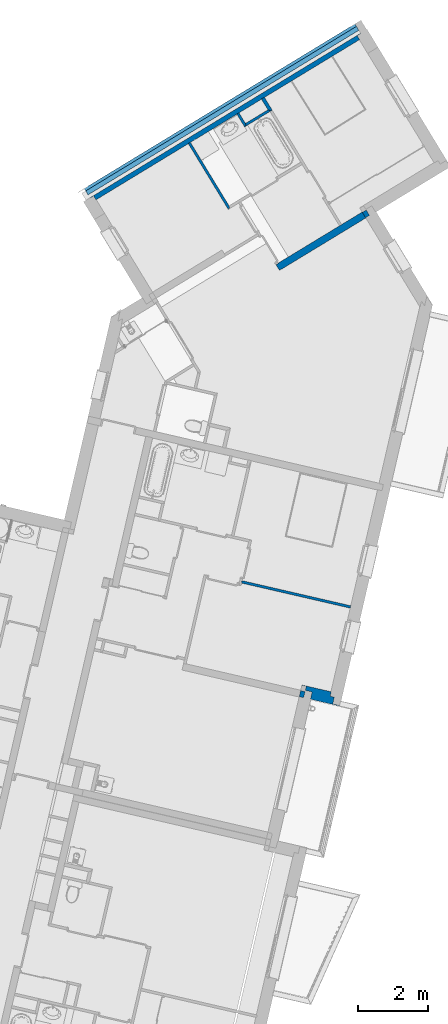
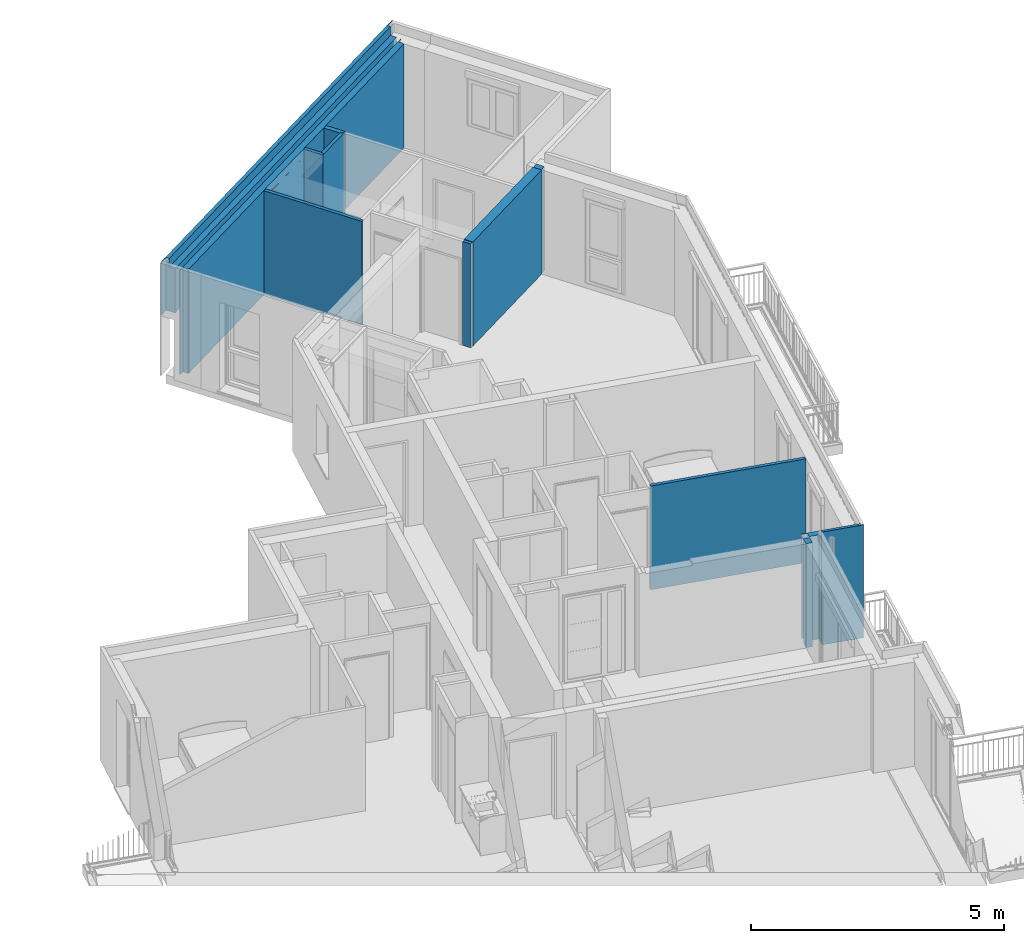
# One storey, part 55 of 90: 11 walls.
"""IFC2X3 building model written with IfcOpenShell, lengths in metres."""

import ifcopenshell
import ifcopenshell.guid

model = None  # the IFC model being written
_history = None  # IfcOwnerHistory: only IFC2X3 demands one
_inside = {}  # id of a spatial element -> (the spatial element, [elements in it])
_under = {}  # id of a project, library or spatial element -> (it, [spatial elements below it])
_declared = {}  # id of a project -> (the project, [libraries it declares])
_typed = {}  # id of a type object -> (the type object, [elements of that type])
_made_of = {}  # id of a material, layer set ... -> (it, [elements and type objects made of it])


def new_model(schema):
    """Start an empty IFC model of exactly this schema.

    Asked for "IFC4X3", IfcOpenShell would pick the latest addendum, in which some entities
    have other attributes; the version numbers below select the first issue.
    IFC2X3 requires an IfcOwnerHistory on every rooted entity: one is made here for all.
    """
    global model, _history
    if schema == "IFC4X3":
        model = ifcopenshell.file(schema_version=(4, 3, 0, 0))
    else:
        model = ifcopenshell.file(schema=schema)
    _inside.clear()
    _under.clear()
    _declared.clear()
    _typed.clear()
    _made_of.clear()
    _history = None
    if model.schema == "IFC2X3":
        org = make("IfcOrganization", Name="unknown")
        user = make(
            "IfcPersonAndOrganization",
            ThePerson=make("IfcPerson", FamilyName="unknown"),
            TheOrganization=org,
        )
        app = make(
            "IfcApplication",
            ApplicationDeveloper=org,
            Version="unknown",
            ApplicationFullName="unknown",
            ApplicationIdentifier="unknown",
        )
        _history = make(
            "IfcOwnerHistory",
            OwningUser=user,
            OwningApplication=app,
            ChangeAction="ADDED",
            CreationDate=0,
        )
    return model


def make(cls, **values):
    """One entity of the class cls with the attributes given. An attribute that is None is left unset."""
    return model.create_entity(
        cls, **{name: value for name, value in values.items() if value is not None}
    )


def entity(cls, *values):
    """Any entity or typed value of the class cls, its attributes in the order of the schema. None: left unset."""
    e = model.create_entity(cls)
    for i, value in enumerate(values):
        if value is not None:
            e[i] = value
    return e


def rooted(cls, **values):
    """An entity with a GlobalId (a new one), such as an element, a storey or a relation."""
    return make(cls, GlobalId=ifcopenshell.guid.new(), OwnerHistory=_history, **values)


def si_unit(unit_type, name, prefix=None):
    """IfcSIUnit, for example si_unit("LENGTHUNIT", "METRE", prefix="MILLI")."""
    return make("IfcSIUnit", UnitType=unit_type, Prefix=prefix, Name=name)


def converted_unit(unit_type, name, factor, base, dimensions=None, offset=None):
    """IfcConversionBasedUnit, such as the inch: factor (a typed value) times the base unit."""
    return make(
        "IfcConversionBasedUnit"
        if offset is None
        else "IfcConversionBasedUnitWithOffset",
        ConversionOffset=offset,
        Dimensions=None
        if dimensions is None
        else entity("IfcDimensionalExponents", *dimensions),
        UnitType=unit_type,
        Name=name,
        ConversionFactor=make(
            "IfcMeasureWithUnit", ValueComponent=factor, UnitComponent=base
        ),
    )


def derived_unit(unit_type, elements):
    """IfcDerivedUnit: a product of units, each with its exponent."""
    return make(
        "IfcDerivedUnit",
        Elements=[
            make("IfcDerivedUnitElement", Unit=unit, Exponent=power)
            for unit, power in elements
        ],
        UnitType=unit_type,
    )


def money_unit(currency):
    """IfcMonetaryUnit."""
    return make("IfcMonetaryUnit", Currency=currency)


def assignment(units):
    """IfcUnitAssignment: the units of a project."""
    return None if units is None else make("IfcUnitAssignment", Units=units)


def point(xyz):
    """IfcCartesianPoint."""
    return None if xyz is None else make("IfcCartesianPoint", Coordinates=xyz)


def direction(xyz):
    """IfcDirection."""
    return None if xyz is None else make("IfcDirection", DirectionRatios=xyz)


def frame(location, z_axis=None, x_axis=None):
    """IfcAxis2Placement3D, a coordinate frame: its origin and axes. An axis left out is left unset."""
    return make(
        "IfcAxis2Placement3D",
        Location=point(location),
        Axis=direction(z_axis),
        RefDirection=direction(x_axis),
    )


def origin_with_axes():
    """The frame at (0, 0, 0) with the z axis (0, 0, 1) and the x axis (1, 0, 0) written out."""
    return frame((0.0, 0.0, 0.0), z_axis=(0.0, 0.0, 1.0), x_axis=(1.0, 0.0, 0.0))


def place(relative_to, where):
    """IfcLocalPlacement: puts the frame where relative to a parent placement (None: the world)."""
    return make(
        "IfcLocalPlacement", PlacementRelTo=relative_to, RelativePlacement=where
    )


def context(
    kind, dimensions, precision=None, world=None, true_north=None, identifier=None
):
    """IfcGeometricRepresentationContext, for example the 3D "Model" context."""
    return make(
        "IfcGeometricRepresentationContext",
        ContextIdentifier=identifier,
        ContextType=kind,
        CoordinateSpaceDimension=dimensions,
        Precision=precision,
        WorldCoordinateSystem=world,
        TrueNorth=true_north,
    )


def subcontext(parent, identifier, kind, view, scale=None):
    """IfcGeometricRepresentationSubContext, for example "Body" below "Model"."""
    return make(
        "IfcGeometricRepresentationSubContext",
        ContextIdentifier=identifier,
        ContextType=kind,
        ParentContext=parent,
        TargetScale=scale,
        TargetView=view,
    )


def project(units=None, contexts=None):
    """IfcProject with its units and contexts."""
    return rooted(
        "IfcProject",
        Name="project",
        RepresentationContexts=contexts,
        UnitsInContext=assignment(units),
    )


def spatial(cls, under=None, at=None, **own):
    """A site, building, storey or space (cls), placed at a placement, below another one or the project."""
    s = rooted(cls, ObjectPlacement=at, **own)
    if under is not None:
        _under.setdefault(under.id(), (under, []))[1].append(s)
    return s


def faces_of(points, faces, orient=None, outer=None):
    """IfcFace entities. A face is a list of loops; a loop is a list of indices into points, from 0.

    orient and outer hold one flag for each loop. By default every Orientation is true, the
    first loop of a face is its IfcFaceOuterBound and the others are IfcFaceBound.
    """
    made = []
    for i, loops in enumerate(faces):
        bounds = []
        for j, loop in enumerate(loops):
            is_outer = j == 0 if outer is None else outer[i][j]
            bounds.append(
                make(
                    "IfcFaceOuterBound" if is_outer else "IfcFaceBound",
                    Bound=make("IfcPolyLoop", Polygon=[points[k] for k in loop]),
                    Orientation=True if orient is None else orient[i][j],
                )
            )
        made.append(make("IfcFace", Bounds=bounds))
    return made


def faceted_brep(points, faces, orient=None, outer=None, voids=None):
    """IfcFacetedBrep: a solid bounded by flat faces; with voids (closed shells), ...WithVoids."""
    shared = [point(p) for p in points]
    hull = make("IfcClosedShell", CfsFaces=faces_of(shared, faces, orient, outer))
    if voids is None:
        return make("IfcFacetedBrep", Outer=hull)
    return make(
        "IfcFacetedBrepWithVoids",
        Outer=hull,
        Voids=[
            make(cls, CfsFaces=faces_of(shared, fs, o, b)) for cls, fs, o, b in voids
        ],
    )


def shape(context_of_items, identifier, shape_type, items):
    """IfcShapeRepresentation: the items that make up one representation, for example the "Body"."""
    return make(
        "IfcShapeRepresentation",
        ContextOfItems=context_of_items,
        RepresentationIdentifier=identifier,
        RepresentationType=shape_type,
        Items=items,
    )


def material(Name=None, Category=None):
    """IfcMaterial."""
    return make("IfcMaterial", Name=Name, Category=Category)


def material_list(materials):
    """IfcMaterialList."""
    return make("IfcMaterialList", Materials=materials)


def made_of(thing, what):
    """Note that an element or type object is made of a material, layer set ...; save() writes the relation."""
    if what is not None:
        _made_of.setdefault(what.id(), (what, []))[1].append(thing)
    return thing


def type_object(cls, material=None, **own):
    """A type object (cls), such as IfcWallType, which elements share."""
    return made_of(rooted(cls, **own), material)


def element(
    cls,
    number,
    at=None,
    inside=None,
    cuts=None,
    type_object=None,
    material=None,
    context=None,
    identifier="Body",
    shape_type=None,
    held_by="IfcProductDefinitionShape",
    body=None,
    shapes=None,
    **own,
):
    """One element of the class cls, such as IfcWall. Its Tag is "e" and its number.

    at: its placement. inside: the storey or other place that contains it. cuts: it is an
    opening in that element (IfcRelVoidsElement). A single representation is given by context,
    identifier, shape_type and body (its items); several are given by shapes. held_by: the class
    of the entity that holds the representations. save() writes the other relations.
    """
    e = rooted(cls, Tag="e%d" % number, ObjectPlacement=at, **own)
    if body is not None:
        shapes = [shape(context, identifier, shape_type, body)]
    if shapes is not None:
        e.Representation = make(held_by, Representations=shapes)
    if inside is not None:
        _inside.setdefault(inside.id(), (inside, []))[1].append(e)
    if cuts is not None:
        rooted(
            "IfcRelVoidsElement", RelatingBuildingElement=cuts, RelatedOpeningElement=e
        )
    if type_object is not None:
        _typed.setdefault(type_object.id(), (type_object, []))[1].append(e)
    return made_of(e, material)


def aggregate(whole, parts):
    """IfcRelAggregates: a whole, such as a stair, and the parts it consists of."""
    return rooted("IfcRelAggregates", RelatingObject=whole, RelatedObjects=parts)


def save(model, path):
    """Write the relations noted so far, then the file.

    IfcRelAggregates (storeys below a building ...), IfcRelContainedInSpatialStructure (elements
    in a storey), IfcRelDefinesByType, IfcRelAssociatesMaterial and IfcRelDeclares: one each for
    every whole, place, type object, material and project.
    """
    for whole, parts in _under.values():
        aggregate(whole, parts)
    for where, things in _inside.values():
        rooted(
            "IfcRelContainedInSpatialStructure",
            RelatedElements=things,
            RelatingStructure=where,
        )
    for kind, things in _typed.values():
        rooted("IfcRelDefinesByType", RelatedObjects=things, RelatingType=kind)
    for what, things in _made_of.values():
        rooted("IfcRelAssociatesMaterial", RelatedObjects=things, RelatingMaterial=what)
    for by, libraries in _declared.values():
        rooted("IfcRelDeclares", RelatingContext=by, RelatedDefinitions=libraries)
    model.write(path)


model = new_model("IFC2X3")

# Units and contexts
model_context = context("Model", 3, precision=1e-05, world=origin_with_axes(), true_north=direction((0.0, 1.0)))
body_context = subcontext(model_context, "Body", "Model", "MODEL_VIEW")
ifc_project = project(units=[si_unit("LENGTHUNIT", "METRE"), si_unit("AREAUNIT", "SQUARE_METRE"), si_unit("VOLUMEUNIT", "CUBIC_METRE"), converted_unit("PLANEANGLEUNIT", "DEGREE", entity("IfcPlaneAngleMeasure", 0.0174532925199), si_unit("PLANEANGLEUNIT", "RADIAN"), dimensions=[0, 0, 0, 0, 0, 0, 0]), si_unit("SOLIDANGLEUNIT", "STERADIAN"), money_unit("EUR"), converted_unit("TIMEUNIT", "Year", entity("IfcTimeMeasure", 31556926.0), si_unit("TIMEUNIT", "SECOND"), dimensions=[0, 0, 1, 0, 0, 0, 0]), si_unit("MASSUNIT", "GRAM", prefix="KILO"), si_unit("THERMODYNAMICTEMPERATUREUNIT", "DEGREE_CELSIUS"), si_unit("LUMINOUSINTENSITYUNIT", "LUMEN"), si_unit("ENERGYUNIT", "JOULE", prefix="MEGA"), derived_unit("THERMALCONDUCTANCEUNIT", [(si_unit("POWERUNIT", "WATT"), 1), (si_unit("LENGTHUNIT", "METRE"), -1), (si_unit("THERMODYNAMICTEMPERATUREUNIT", "KELVIN"), -1)]), derived_unit("SPECIFICHEATCAPACITYUNIT", [(si_unit("ENERGYUNIT", "JOULE"), 1), (si_unit("MASSUNIT", "GRAM", prefix="KILO"), -1), (si_unit("THERMODYNAMICTEMPERATUREUNIT", "KELVIN"), -1)]), derived_unit("MASSDENSITYUNIT", [(si_unit("MASSUNIT", "GRAM", prefix="KILO"), 1), (si_unit("VOLUMEUNIT", "CUBIC_METRE"), -1)])], contexts=[model_context])

# Site, building, storey
site_placement = place(None, origin_with_axes())
site = spatial("IfcSite", under=ifc_project, at=site_placement, Name="Site", CompositionType="ELEMENT")
building_placement = place(site_placement, origin_with_axes())
building = spatial("IfcBuilding", under=site, at=building_placement, Name="Bâtiment", CompositionType="ELEMENT")
storey_placement = place(building_placement, frame((0.0, 0.0, 2.72), z_axis=(0.0, 0.0, 1.0), x_axis=(1.0, 0.0, 0.0)))
storey = spatial("IfcBuildingStorey", under=building, at=storey_placement, Name="R+1", CompositionType="ELEMENT", Elevation=2.72)

# Walls
ifc_material_1 = material(Name="Finition int - Plaque de plâtre")
ifc_material_2 = material(Name="Isolation - Polystyrène extrudé")
ifc_material_3 = material(Name="Bloc ELITHERM")
ifc_material_4 = material(Name="Mortier")
ifc_material_5 = material(Name="Béton cellulaire")
ifc_material_6 = material(Name="Finition ext - Crépis")
ifc_material_list_1 = material_list([ifc_material_1, ifc_material_2, ifc_material_3, ifc_material_4, ifc_material_5, ifc_material_6])
wall_type_1 = type_object("IfcWallType", Name="Mur ALKERN + planelle 21 345 x 2720", PredefinedType="USERDEFINED")
wall_1_placement = place(storey_placement, frame((-1.10089203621, 6.64769459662, 0.0), z_axis=(0.0, 0.0, 1.0), x_axis=(0.974387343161, -0.224876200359, 0.0)))
element("IfcWall", 1, at=wall_1_placement, inside=storey, type_object=wall_type_1, material=ifc_material_list_1, Name="Mue bloc ALKERN isolé", ObjectType="SOLIDWALL", context=body_context, shape_type="Brep", body=[
    faceted_brep([(0.495808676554, 0.34499998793, 0.0), (-0.350000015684, 0.34499998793, 0.0), (-0.350000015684, 0.34499998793, 2.51), (0.495808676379, 0.34499998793, 2.51000000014), (0.495808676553, 0.335000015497, 0.0), (-0.350000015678, 0.335000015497, 0.0), (-0.350000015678, 0.335000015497, 2.51), (0.495808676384, 0.335000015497, 2.51000000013)], [[[0, 1, 2, 3]], [[4, 5, 1, 0]], [[5, 6, 2, 1]], [[3, 2, 6, 7]], [[4, 0, 3, 7]], [[7, 6, 5, 4]]]),
    faceted_brep([(0.505808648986, 0.335000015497, 0.0), (-0.230000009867, 0.335000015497, 0.0), (-0.230000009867, 0.335000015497, 2.51), (0.505808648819, 0.335000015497, 2.51000000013), (0.505808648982, 0.215000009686, 0.0), (-0.230000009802, 0.215000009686, 0.0), (-0.230000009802, 0.215000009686, 2.51), (0.505808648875, 0.215000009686, 2.51000000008)], [[[0, 1, 2, 3]], [[4, 5, 1, 0]], [[5, 6, 2, 1]], [[3, 2, 6, 7]], [[4, 0, 3, 7]], [[7, 6, 5, 4]]]),
    faceted_brep([(-0.0300000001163, 0.214999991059, 0.0), (-0.0300000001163, 0.214999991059, 2.50999999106), (0.625808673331, 0.214999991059, 2.5099999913), (0.625808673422, 0.214999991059, 0.0), (-0.0300000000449, 0.0829999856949, 2.50999999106), (-0.0300000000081, 0.015, 0.0), (-0.0300000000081, 0.015, 2.50999999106), (0.625808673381, 0.0829999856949, 2.50999999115), (0.625808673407, 0.015, 2.50999999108), (0.625808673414, 0.015, 0.0)], [[[0, 1, 2, 3]], [[4, 1, 0, 5, 6]], [[1, 4, 7, 2]], [[3, 2, 7, 8, 9]], [[5, 0, 3, 9]], [[6, 5, 9, 8]], [[4, 6, 8, 7]]]),
    faceted_brep([(-0.0300000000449, 0.083, 2.51), (-0.0300000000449, 0.083, 2.52), (0.757808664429, 0.083, 2.52), (0.757808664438, 0.083, 2.51), (-0.0300000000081, 0.015, 2.52), (-0.0300000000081, 0.015, 2.51), (0.757808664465, 0.015, 2.52), (0.757808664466, 0.015, 2.51)], [[[0, 1, 2, 3]], [[4, 1, 0, 5]], [[1, 4, 6, 2]], [[3, 2, 6, 7]], [[5, 0, 3, 7]], [[4, 5, 7, 6]]]),
    faceted_brep([(-0.0300000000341, 0.0629999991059, 2.51999999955), (-0.0300000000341, 0.0629999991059, 2.72), (0.777808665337, 0.0629999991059, 2.71999999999), (0.777808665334, 0.0629999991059, 2.51999999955), (-0.0300000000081, 0.015, 2.72), (-0.0300000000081, 0.015, 2.51999999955), (0.777808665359, 0.015, 2.72), (0.777808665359, 0.015, 2.51999999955)], [[[0, 1, 2, 3]], [[4, 1, 0, 5]], [[1, 4, 6, 2]], [[3, 2, 6, 7]], [[5, 0, 3, 7]], [[4, 5, 7, 6]]]),
    faceted_brep([(-0.0150000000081, 0.0149999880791, 2.72), (0.825808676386, 0.0149999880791, 2.72), (0.825808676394, 0.0149999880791, 0.0), (-0.0150000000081, 0.0149999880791, 0.0), (-0.015, 1.07104192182e-09, 2.72), (0.825808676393, 1.19209389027e-08, 2.72), (0.825808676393, 1.19209380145e-08, 0.0), (-0.015, 3.46828610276e-09, 0.0)], [[[0, 1, 2, 3]], [[1, 0, 4, 5]], [[2, 1, 5, 6]], [[6, 7, 3, 2]], [[7, 4, 0, 3]], [[5, 4, 7, 6]]]),
])
ifc_material_7 = material(Name="Isolation - Laine de roche")
ifc_material_list_2 = material_list([ifc_material_1, ifc_material_7, ifc_material_1])
wall_type_2 = type_object("IfcWallType", Name="3 - Cloison 72mm Placostil 74", PredefinedType="USERDEFINED")
wall_2_placement = place(storey_placement, frame((-4.63665973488, 22.6087189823, 0.0), z_axis=(0.0, 0.0, 1.0), x_axis=(0.519386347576, -0.854539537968, 0.0)))
element("IfcWall", 2, at=wall_2_placement, inside=storey, type_object=wall_type_2, material=ifc_material_list_2, Name="Cloison Placostil 72/48", ObjectType="PARTITIONING", context=body_context, shape_type="Brep", body=[
    faceted_brep([(2.1476072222, 0.074, 0.0), (-1.19848415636e-08, 0.074, 0.0), (-1.19848415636e-08, 0.074, 2.5), (2.1476072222, 0.074, 2.5), (2.14760722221, 0.061, 0.0), (-1.19736149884e-08, 0.061, 0.0), (-1.19736149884e-08, 0.061, 2.5), (2.14760722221, 0.061, 2.5)], [[[0, 1, 2, 3]], [[4, 5, 1, 0]], [[5, 6, 2, 1]], [[3, 2, 6, 7]], [[4, 0, 3, 7]], [[7, 6, 5, 4]]]),
    faceted_brep([(2.19560722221, 0.061, 0.0), (-0.00999998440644, 0.061, 0.0), (-0.00999998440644, 0.061, 2.5), (2.19560722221, 0.061, 2.5), (2.19560722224, 0.013, 0.0), (-0.009999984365, 0.013, 0.0), (-0.009999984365, 0.013, 2.5), (2.19560722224, 0.013, 2.5)], [[[0, 1, 2, 3]], [[4, 5, 1, 0]], [[5, 6, 2, 1]], [[3, 2, 6, 7]], [[4, 0, 3, 7]], [[7, 6, 5, 4]]]),
    faceted_brep([(2.20860722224, 0.013, 0.0), (-1.19321690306e-08, 0.013, 0.0), (-1.19321725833e-08, 0.013, 2.5), (2.20860722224, 0.013, 2.5), (2.20860722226, 0.0, 0.0), (-1.19209424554e-08, 0.0, 0.0), (-1.19209424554e-08, 0.0, 2.5), (2.20860722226, 0.0, 2.5)], [[[0, 1, 2, 3]], [[4, 5, 1, 0]], [[5, 6, 2, 1]], [[3, 2, 6, 7]], [[4, 0, 3, 7]], [[7, 6, 5, 4]]]),
])
wall_3_placement = place(storey_placement, frame((-3.1024960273, 9.98837130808, 0.0), z_axis=(0.0, 0.0, 1.0), x_axis=(0.974387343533, -0.224876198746, 0.0)))
element("IfcWall", 3, at=wall_3_placement, inside=storey, type_object=wall_type_2, material=ifc_material_list_2, Name="Cloison Placostil 72/48", ObjectType="PARTITIONING", context=body_context, shape_type="Brep", body=[
    faceted_brep([(0.0, 0.074, 0.0), (3.19738495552, 0.074, 0.0), (3.19738495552, 0.061, 0.0), (0.0, 0.061, 0.0), (0.0, 0.074, 2.5), (3.19738495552, 0.074, 2.5), (3.19738495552, 0.061, 2.5), (0.0, 0.061, 2.5)], [[[0, 1, 2, 3]], [[4, 5, 1, 0]], [[2, 1, 5, 6]], [[3, 2, 6, 7]], [[4, 0, 3, 7]], [[7, 6, 5, 4]]]),
    faceted_brep([(-0.013, 0.061, 0.0), (3.19738495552, 0.061, 0.0), (3.19738495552, 0.013, 0.0), (-0.013, 0.013, 0.0), (-0.013, 0.061, 2.5), (3.19738495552, 0.061, 2.5), (3.19738495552, 0.013, 2.5), (-0.013, 0.013, 2.5)], [[[0, 1, 2, 3]], [[4, 5, 1, 0]], [[2, 1, 5, 6]], [[3, 2, 6, 7]], [[4, 0, 3, 7]], [[7, 6, 5, 4]]]),
    faceted_brep([(0.0, 0.013, 0.0), (3.19738495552, 0.013, 0.0), (3.19738495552, 0.0, 0.0), (0.0, 0.0, 0.0), (0.0, 0.013, 2.5), (3.19738495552, 0.013, 2.5), (3.19738495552, 0.0, 2.5), (0.0, 0.0, 2.5)], [[[0, 1, 2, 3]], [[4, 5, 1, 0]], [[2, 1, 5, 6]], [[3, 2, 6, 7]], [[4, 0, 3, 7]], [[7, 6, 5, 4]]]),
])
ifc_material_8 = material(Name="Finition int - Enduit plâtre")
ifc_material_9 = material(Name="Béton")
ifc_material_list_3 = material_list([ifc_material_8, ifc_material_9, ifc_material_8])
wall_type_3 = type_object("IfcWallType", Name="2 - Murs Béton 18 + Enduit 2 Faces 200", PredefinedType="USERDEFINED")
wall_4_placement = place(storey_placement, frame((0.455479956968, 20.4845198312, 0.0), z_axis=(0.0, 0.0, 1.0), x_axis=(-0.854539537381, -0.519386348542, 0.0)))
element("IfcWall", 4, at=wall_4_placement, inside=storey, type_object=wall_type_3, material=ifc_material_list_3, Name="M_Ext-008", ObjectType="SOLIDWALL", context=body_context, shape_type="Brep", body=[
    faceted_brep([(0.0, 0.0, 2.51), (0.0, 0.01, 2.51), (0.0, 0.01, 0.0), (0.0, 0.0, 0.0), (2.82618134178, 0.01, 2.51), (2.82618134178, 0.0, 2.51), (2.82618134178, 0.01, 2.5), (2.82618134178, 0.01, 0.0), (2.82618134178, 0.0, 0.0), (2.82618134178, 0.0, 2.5)], [[[0, 1, 2, 3]], [[4, 1, 0, 5]], [[1, 4, 6, 7, 2]], [[2, 7, 8, 3]], [[5, 0, 3, 8, 9]], [[4, 5, 9, 6]], [[8, 7, 6, 9]]]),
    faceted_brep([(0.0, -0.18, 2.51), (0.0, 0.0, 2.51), (0.0, 0.0, 0.0), (0.0, -0.18, 0.0), (2.82618134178, 0.0, 2.51), (2.82618134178, -0.18, 2.51), (2.82618134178, 0.0, 2.5), (2.90018134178, 0.0, 2.5), (2.90018134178, 0.0, 0.0), (2.90018134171, -0.18, 0.0), (2.90018134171, -0.18, 2.5), (2.82618134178, -0.18, 2.5)], [[[0, 1, 2, 3]], [[4, 1, 0, 5]], [[1, 4, 6, 7, 8, 2]], [[2, 8, 9, 3]], [[5, 0, 3, 9, 10, 11]], [[4, 5, 11, 6]], [[11, 10, 7, 6]], [[9, 8, 7, 10]]]),
    faceted_brep([(0.0, -0.19, 2.51), (0.0, -0.18, 2.51), (0.0, -0.18, 0.0), (0.0, -0.19, 0.0), (2.82618134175, -0.18, 2.51), (2.82618134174, -0.19, 2.51), (2.82618134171, -0.18, 2.5), (2.82618134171, -0.18, 0.0), (2.82618134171, -0.19, 0.0), (2.82618134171, -0.19, 2.5)], [[[0, 1, 2, 3]], [[4, 1, 0, 5]], [[1, 4, 6, 7, 2]], [[2, 7, 8, 3]], [[5, 0, 3, 8, 9]], [[4, 5, 9, 6]], [[8, 7, 6, 9]]]),
])
wall_type_4 = type_object("IfcWallType", Name="3 - Cloison Gaine Technique 72mm 74", PredefinedType="USERDEFINED")
wall_5_placement = place(storey_placement, frame((-3.24181942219, 23.4564983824, 0.0), z_axis=(0.0, 0.0, 1.0), x_axis=(0.519386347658, -0.854539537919, 0.0)))
element("IfcWall", 5, at=wall_5_placement, inside=storey, type_object=wall_type_4, material=ifc_material_list_2, Name="Cloison Placostil 72/48", ObjectType="PARTITIONING", context=body_context, shape_type="Brep", body=[
    faceted_brep([(0.367000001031, 0.074, 0.0), (-1.19777858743e-08, 0.074, 0.0), (-1.19777858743e-08, 0.074, 2.5), (0.367000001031, 0.074, 2.5), (0.367000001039, 0.061, 0.0), (-1.19677991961e-08, 0.061, 0.0), (-1.19677991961e-08, 0.061, 2.5), (0.367000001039, 0.061, 2.5)], [[[0, 1, 2, 3]], [[4, 5, 1, 0]], [[5, 6, 2, 1]], [[3, 2, 6, 7]], [[4, 0, 3, 7]], [[7, 6, 5, 4]]]),
    faceted_brep([(0.415000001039, 0.061, 0.0), (-0.00999998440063, 0.061, 0.0), (-0.00999998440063, 0.061, 2.5), (0.415000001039, 0.061, 2.5), (0.415000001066, 0.013, 0.0), (-0.00999998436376, 0.013, 0.0), (-0.00999998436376, 0.013, 2.5), (0.415000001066, 0.013, 2.5)], [[[0, 1, 2, 3]], [[4, 5, 1, 0]], [[5, 6, 2, 1]], [[3, 2, 6, 7]], [[4, 0, 3, 7]], [[7, 6, 5, 4]]]),
    faceted_brep([(0.428000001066, 0.013, 0.0), (-1.19309291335e-08, 0.013, 0.0), (-1.19309291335e-08, 0.013, 2.5), (0.428000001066, 0.013, 2.5), (0.428000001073, 0.0, 0.0), (-1.19209424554e-08, 0.0, 0.0), (-1.19209460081e-08, 0.0, 2.5), (0.428000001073, 0.0, 2.5)], [[[0, 1, 2, 3]], [[4, 5, 1, 0]], [[5, 6, 2, 1]], [[3, 2, 6, 7]], [[4, 0, 3, 7]], [[7, 6, 5, 4]]]),
])
wall_6_placement = place(storey_placement, frame((-3.01952206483, 23.0907554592, 0.0), z_axis=(0.0, 0.0, 1.0), x_axis=(0.854539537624, 0.519386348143, 0.0)))
element("IfcWall", 6, at=wall_6_placement, inside=storey, type_object=wall_type_4, material=ifc_material_list_2, Name="Cloison Placostil 72/48", ObjectType="PARTITIONING", context=body_context, shape_type="Brep", body=[
    faceted_brep([(0.828131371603, 0.074, 0.0), (0.828131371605, 0.061, 0.0), (0.0740000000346, 0.061, 0.0), (0.074000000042, 0.074, 0.0), (0.828131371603, 0.074, 2.5), (0.828131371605, 0.061, 2.5), (0.0740000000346, 0.061, 2.5), (0.074000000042, 0.074, 2.5)], [[[0, 1, 2, 3]], [[1, 0, 4, 5]], [[1, 5, 6, 2]], [[7, 3, 2, 6]], [[4, 0, 3, 7]], [[5, 4, 7, 6]]]),
    faceted_brep([(0.854131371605, 0.061, 0.0), (0.854131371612, 0.013, 0.0), (0.0610000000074, 0.013, 0.0), (0.0610000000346, 0.061, 0.0), (0.854131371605, 0.061, 2.5), (0.854131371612, 0.013, 2.5), (0.0610000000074, 0.013, 2.5), (0.0610000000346, 0.061, 2.5)], [[[0, 1, 2, 3]], [[1, 0, 4, 5]], [[1, 5, 6, 2]], [[7, 3, 2, 6]], [[4, 0, 3, 7]], [[5, 4, 7, 6]]]),
    faceted_brep([(0.902131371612, 0.013, 0.0), (0.902131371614, 0.0, 0.0), (0.013, 0.0, 0.0), (0.0130000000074, 0.013, 0.0), (0.902131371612, 0.013, 2.5), (0.902131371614, 0.0, 2.5), (0.013, 0.0, 2.5), (0.0130000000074, 0.013, 2.5)], [[[0, 1, 2, 3]], [[1, 0, 4, 5]], [[1, 5, 6, 2]], [[7, 3, 2, 6]], [[4, 0, 3, 7]], [[5, 4, 7, 6]]]),
])
wall_type_5 = type_object("IfcWallType", Name="Béton 180", PredefinedType="USERDEFINED")
wall_7_placement = place(storey_placement, frame((0.566570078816, 20.5520400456, 0.0), z_axis=(0.0, 0.0, 1.0), x_axis=(-0.854539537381, -0.519386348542, 0.0)))
element("IfcWall", 7, at=wall_7_placement, inside=storey, type_object=wall_type_5, material=ifc_material_9, Name="M_Ext-008", ObjectType="SOLIDWALL", context=body_context, shape_type="Brep", body=[
    faceted_brep([(0.0, -0.18, 0.0), (0.0, -0.18, 2.51), (0.0, 0.0, 2.51), (0.0, 0.0, 0.0), (0.129999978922, -0.18, 0.0), (0.129999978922, -0.18, 2.51), (0.129999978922, 0.0, 2.51), (0.129999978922, 0.0, 0.0)], [[[0, 1, 2, 3]], [[4, 5, 1, 0]], [[5, 6, 2, 1]], [[3, 2, 6, 7]], [[0, 3, 7, 4]], [[7, 6, 5, 4]]]),
])
wall_8_placement = place(storey_placement, frame((-1.45167146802, 6.72865002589, 0.0), z_axis=(0.0, 0.0, 1.0), x_axis=(0.974387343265, -0.224876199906, 0.0)))
element("IfcWall", 8, at=wall_8_placement, inside=storey, type_object=wall_type_5, material=ifc_material_9, Name="M_Ext-008", ObjectType="SOLIDWALL", context=body_context, shape_type="Brep", body=[
    faceted_brep([(0.0, 0.0, 0.0), (0.0, 0.18, 0.0), (0.129999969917, 0.18, 0.0), (0.129999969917, 0.0, 0.0), (0.0, 0.0, 2.51), (0.0, 0.18, 2.51), (0.129999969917, 0.18, 2.51), (0.129999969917, 0.0, 2.51)], [[[0, 1, 2, 3]], [[4, 5, 1, 0]], [[1, 5, 6, 2]], [[7, 3, 2, 6]], [[4, 0, 3, 7]], [[5, 4, 7, 6]]]),
])
ifc_material_list_4 = material_list([ifc_material_1, ifc_material_1, ifc_material_7, ifc_material_1, ifc_material_1])
wall_type_6 = type_object("IfcWallType", Name="3 - Cloison Gaine Technique 98mm 100", PredefinedType="USERDEFINED")
wall_9_placement = place(storey_placement, frame((-2.53414842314, 23.8866185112, 0.0), z_axis=(0.0, 0.0, 1.0), x_axis=(0.519386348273, -0.854539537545, 0.0)))
element("IfcWall", 9, at=wall_9_placement, inside=storey, type_object=wall_type_6, material=ifc_material_list_4, Name="Cloison 98 isolée", ObjectType="PARTITIONING", context=body_context, shape_type="Brep", body=[
    faceted_brep([(0.428000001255, 0.1, 0.0), (-1.1925774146e-08, 0.1, 0.0), (-1.1925774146e-08, 0.1, 2.5), (0.428000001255, 0.1, 2.5), (0.428000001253, 0.087, 0.0), (-1.19251453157e-08, 0.087, 0.0), (-1.19251453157e-08, 0.087, 2.5), (0.428000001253, 0.087, 2.5)], [[[0, 1, 2, 3]], [[4, 5, 1, 0]], [[5, 6, 2, 1]], [[3, 2, 6, 7]], [[4, 0, 3, 7]], [[7, 6, 5, 4]]]),
    faceted_brep([(0.428000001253, 0.087, 0.0), (-0.00999998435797, 0.087, 0.0), (-0.00999998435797, 0.087, 2.5), (0.428000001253, 0.087, 2.5), (0.428000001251, 0.074, 0.0), (-0.00999998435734, 0.074, 0.0), (-0.00999998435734, 0.074, 2.5), (0.428000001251, 0.074, 2.5)], [[[0, 1, 2, 3]], [[4, 5, 1, 0]], [[5, 6, 2, 1]], [[3, 2, 6, 7]], [[4, 0, 3, 7]], [[7, 6, 5, 4]]]),
    faceted_brep([(0.415000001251, 0.074, 0.0), (-0.00999998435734, 0.074, 0.0), (-0.00999998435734, 0.074, 2.5), (0.415000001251, 0.074, 2.5), (0.415000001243, 0.026, 0.0), (-0.00999998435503, 0.026, 0.0), (-0.00999998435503, 0.026, 2.5), (0.415000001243, 0.026, 2.5)], [[[0, 1, 2, 3]], [[4, 5, 1, 0]], [[5, 6, 2, 1]], [[3, 2, 6, 7]], [[4, 0, 3, 7]], [[7, 6, 5, 4]]]),
    faceted_brep([(0.367000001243, 0.026, 0.0), (-0.00999998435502, 0.026, 0.0), (-0.00999998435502, 0.026, 2.5), (0.367000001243, 0.026, 2.5), (0.367000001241, 0.013, 0.0), (-0.00999998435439, 0.013, 0.0), (-0.00999998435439, 0.013, 2.5), (0.367000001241, 0.013, 2.5)], [[[0, 1, 2, 3]], [[4, 5, 1, 0]], [[5, 6, 2, 1]], [[3, 2, 6, 7]], [[4, 0, 3, 7]], [[7, 6, 5, 4]]]),
    faceted_brep([(0.367000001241, 0.013, 0.0), (-1.1921567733e-08, 0.013, 0.0), (-1.1921567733e-08, 0.013, 2.5), (0.367000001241, 0.013, 2.5), (0.367000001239, 0.0, 0.0), (-1.19209424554e-08, 0.0, 0.0), (-1.19209424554e-08, 0.0, 2.5), (0.367000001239, 0.0, 2.5)], [[[0, 1, 2, 3]], [[4, 5, 1, 0]], [[5, 6, 2, 1]], [[3, 2, 6, 7]], [[4, 0, 3, 7]], [[7, 6, 5, 4]]]),
])
ifc_material_10 = material(Name="Etanchéité résine")
ifc_material_list_5 = material_list([ifc_material_1, ifc_material_2, ifc_material_10])
wall_type_7 = type_object("IfcWallType", Name="Etanchéité intérieure+isolant TH32 140 x 2510", PredefinedType="ELEMENTEDWALL")
wall_10_placement = place(storey_placement, frame((0.557363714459, 25.7656295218, 0.0), z_axis=(0.0, 0.0, 1.0), x_axis=(-0.85453953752, -0.519386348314, 0.0)))
element("IfcWall", 10, at=wall_10_placement, inside=storey, type_object=wall_type_7, material=ifc_material_list_5, Name="M_Ext-011", ObjectType="ELEMENTEDWALL", context=body_context, shape_type="Brep", body=[
    faceted_brep([(6.00415466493, -1.19209424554e-08, 2.51), (6.00415466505, -0.00661718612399, 2.51), (4.56641955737, -1.19209460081e-08, 2.51), (0.330000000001, -1.19209389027e-08, 2.51), (0.330000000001, -0.00999998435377, 2.51), (9.1700000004, -0.00999998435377, 2.51), (9.17000000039, -1.19209460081e-08, 2.51), (6.00415466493, -1.19209424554e-08, 2.31), (6.00415466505, -0.00661718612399, 2.31), (4.56641955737, -1.19209424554e-08, 2.31), (9.17000000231, -1.19209460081e-08, 0.0), (6.06515463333, -1.19209460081e-08, 0.0), (6.06515463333, -1.19209460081e-08, 2.5), (6.01715463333, -1.19209424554e-08, 2.5), (6.01715463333, -1.19209424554e-08, 0.0), (4.4328833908, -1.19209424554e-08, 0.0), (4.4328833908, -1.19209424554e-08, 2.5), (4.3848833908, -1.19209424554e-08, 2.5), (4.3848833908, -1.19209460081e-08, 0.0), (3.6047520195, -1.19209424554e-08, 0.0), (3.6047520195, -1.19209424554e-08, 2.5), (3.5307520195, -1.19209424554e-08, 2.5), (3.5307520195, -1.19209424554e-08, 0.0), (0.330000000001, -1.19209424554e-08, 0.0), (0.330000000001, -0.00999998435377, 0.0), (6.01715463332, -0.00999998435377, 2.5), (6.06515463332, -0.00999998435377, 2.5), (6.06515463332, -0.00999998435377, 0.0), (9.17000000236, -0.00999998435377, 0.0), (3.5307520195, -0.00999998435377, 0.0), (3.5307520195, -0.00999998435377, 2.5), (3.6047520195, -0.00999998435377, 2.5), (3.6047520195, -0.00999998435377, 0.0), (4.3848833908, -0.00999998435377, 0.0), (4.3848833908, -0.00999998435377, 2.5), (4.4328833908, -0.00999998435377, 2.5), (4.4328833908, -0.00999998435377, 0.0), (6.01715463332, -0.00999998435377, 0.0)], [[[0, 1, 2, 3, 4, 5, 6]], [[1, 0, 7, 8]], [[9, 2, 1, 8]], [[7, 0, 6, 10, 11, 12, 13, 14, 15, 16, 17, 18, 19, 20, 21, 22, 23, 3, 2, 9]], [[24, 4, 3, 23]], [[25, 26, 27, 28, 5, 4, 24, 29, 30, 31, 32, 33, 34, 35, 36, 37]], [[28, 10, 6, 5]], [[7, 9, 8]], [[28, 27, 11, 10]], [[26, 12, 11, 27]], [[25, 13, 12, 26]], [[37, 14, 13, 25]], [[15, 14, 37, 36]], [[35, 16, 15, 36]], [[34, 17, 16, 35]], [[33, 18, 17, 34]], [[19, 18, 33, 32]], [[31, 20, 19, 32]], [[30, 21, 20, 31]], [[29, 22, 21, 30]], [[23, 22, 29, 24]]]),
    faceted_brep([(9.18000000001, -0.129999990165, 2.51), (9.18000000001, -0.00999998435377, 2.51), (0.320000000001, -0.00999998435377, 2.51), (0.319999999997, -0.129999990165, 2.51), (9.18000000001, -0.00999998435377, 0.0), (9.18000000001, -0.129999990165, 0.0), (0.320000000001, -0.00999998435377, 0.0), (0.319999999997, -0.129999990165, 0.0)], [[[0, 1, 2, 3]], [[4, 1, 0, 5]], [[1, 4, 6, 2]], [[3, 2, 6, 7]], [[5, 0, 3, 7]], [[4, 5, 7, 6]]]),
    faceted_brep([(9.29000000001, -0.14, 2.51), (9.29000000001, -0.13, 2.51), (0.209999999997, -0.13, 2.51), (0.209999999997, -0.14, 2.51), (9.29000000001, -0.13, 0.0), (9.29000000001, -0.14, 0.0), (0.209999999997, -0.13, 0.0), (0.209999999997, -0.14, 0.0)], [[[0, 1, 2, 3]], [[4, 1, 0, 5]], [[1, 4, 6, 2]], [[3, 2, 6, 7]], [[5, 0, 3, 7]], [[4, 5, 7, 6]]]),
])
ifc_material_list_6 = material_list([ifc_material_6, ifc_material_9])
wall_type_8 = type_object("IfcWallType", Name="1 - Mur BETON 20+ ravalement 1 face 215", PredefinedType="USERDEFINED")
wall_11_placement = place(storey_placement, frame((-7.79708268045, 21.2202747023, 1.44999999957), z_axis=(0.0, 0.0, 1.0), x_axis=(0.85453953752, 0.519386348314, 0.0)))
element("IfcWall", 11, at=wall_11_placement, inside=storey, type_object=wall_type_8, material=ifc_material_list_6, Name="M_Ext-003", ObjectType="SOLIDWALL", context=body_context, shape_type="Brep", body=[
    faceted_brep([(9.50000000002, 0.0, 1.27000000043), (0.0, 0.0, 1.27000000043), (0.0, -0.015, 1.27000000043), (9.50000000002, -0.015, 1.27000000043), (9.50000000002, 0.0, 0.0), (0.0, 0.0, 0.0), (0.0, -0.015, 0.0), (9.50000000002, -0.015, 0.0)], [[[0, 1, 2, 3]], [[4, 5, 1, 0]], [[2, 1, 5, 6]], [[3, 2, 6, 7]], [[3, 7, 4, 0]], [[7, 6, 5, 4]]]),
    faceted_brep([(9.30000000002, -0.083, 1.27000000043), (9.30000000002, -0.083, 1.06000000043), (9.30000000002, -0.215, 1.06000000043), (9.30000000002, -0.215, 0.0), (9.30000000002, -0.015, 0.0), (9.30000000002, -0.015, 1.27000000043), (0.2, -0.083, 1.27000000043), (0.2, -0.083, 1.06000000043), (0.199999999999, -0.215, 1.06000000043), (0.199999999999, -0.215, 0.0), (0.2, -0.015, 0.0), (0.2, -0.015, 1.27000000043)], [[[0, 1, 2, 3, 4, 5]], [[1, 0, 6, 7]], [[8, 2, 1, 7]], [[2, 8, 9, 3]], [[4, 3, 9, 10]], [[5, 4, 10, 11]], [[6, 0, 5, 11]], [[7, 6, 11, 10, 9, 8]]]),
])

save(model, "model.ifc")
